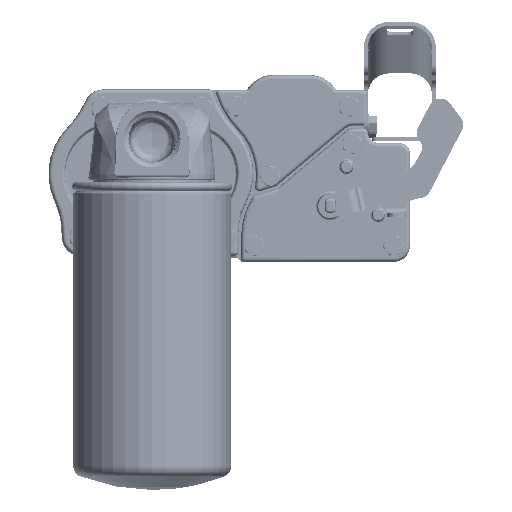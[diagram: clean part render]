
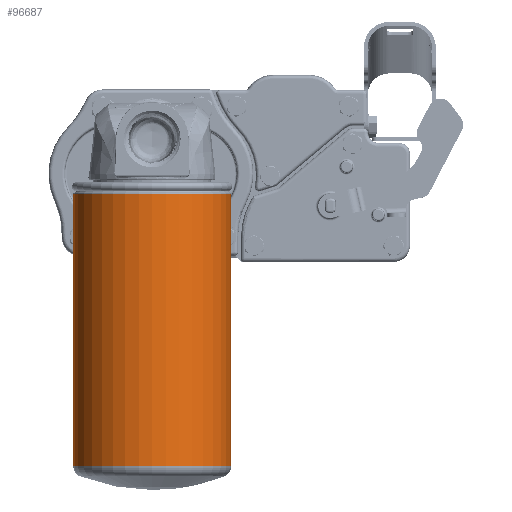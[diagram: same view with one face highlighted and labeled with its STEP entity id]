
A CAD part, top view. The second image highlights one B-rep face of the part: STEP entity #96687.
In plain terms, the highlighted cylindrical face has radius 46.863 mm (diameter 93.726 mm), a full revolution.
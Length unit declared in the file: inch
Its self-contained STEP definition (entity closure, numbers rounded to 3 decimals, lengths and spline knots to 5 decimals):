
#5857=CYLINDRICAL_SURFACE('',#104167,1.845);
#11091=FACE_OUTER_BOUND('',#16629,.T.);
#16629=EDGE_LOOP('',(#85886,#85887,#85888,#85889,#85890,#85891));
#19561=CIRCLE('',#104163,1.845);
#19562=CIRCLE('',#104164,1.845);
#19565=CIRCLE('',#104168,1.845);
#19566=CIRCLE('',#104169,1.845);
#29623=LINE('',#267557,#36389);
#36389=VECTOR('',#125188,1.845);
#45039=VERTEX_POINT('',#267546);
#45040=VERTEX_POINT('',#267547);
#45042=VERTEX_POINT('',#267554);
#45043=VERTEX_POINT('',#267555);
#58655=EDGE_CURVE('',#45039,#45040,#19561,.T.);
#58656=EDGE_CURVE('',#45040,#45039,#19562,.T.);
#58659=EDGE_CURVE('',#45042,#45043,#19565,.T.);
#58660=EDGE_CURVE('',#45042,#45040,#29623,.T.);
#58661=EDGE_CURVE('',#45043,#45042,#19566,.T.);
#85886=ORIENTED_EDGE('',*,*,#58659,.F.);
#85887=ORIENTED_EDGE('',*,*,#58660,.T.);
#85888=ORIENTED_EDGE('',*,*,#58655,.F.);
#85889=ORIENTED_EDGE('',*,*,#58656,.F.);
#85890=ORIENTED_EDGE('',*,*,#58660,.F.);
#85891=ORIENTED_EDGE('',*,*,#58661,.F.);
#96687=ADVANCED_FACE('',(#11091),#5857,.T.);
#104163=AXIS2_PLACEMENT_3D('',#267548,#125176,#125177);
#104164=AXIS2_PLACEMENT_3D('',#267549,#125178,#125179);
#104167=AXIS2_PLACEMENT_3D('',#267553,#125184,#125185);
#104168=AXIS2_PLACEMENT_3D('',#267556,#125186,#125187);
#104169=AXIS2_PLACEMENT_3D('',#267558,#125189,#125190);
#125176=DIRECTION('center_axis',(0.,0.,1.));
#125177=DIRECTION('ref_axis',(0.,-1.,0.));
#125178=DIRECTION('center_axis',(0.,0.,1.));
#125179=DIRECTION('ref_axis',(0.,-1.,0.));
#125184=DIRECTION('center_axis',(0.,0.,-1.));
#125185=DIRECTION('ref_axis',(0.,1.,0.));
#125186=DIRECTION('center_axis',(0.,0.,-1.));
#125187=DIRECTION('ref_axis',(0.,-1.,0.));
#125188=DIRECTION('',(0.,0.,1.));
#125189=DIRECTION('center_axis',(0.,0.,-1.));
#125190=DIRECTION('ref_axis',(0.,-1.,0.));
#267546=CARTESIAN_POINT('',(1.845,0.,6.9262));
#267547=CARTESIAN_POINT('',(0.,-1.845,6.9262));
#267548=CARTESIAN_POINT('Origin',(0.,0.,6.9262));
#267549=CARTESIAN_POINT('Origin',(0.,0.,6.9262));
#267553=CARTESIAN_POINT('Origin',(0.,0.,3.66197));
#267554=CARTESIAN_POINT('',(0.,-1.845,0.55111));
#267555=CARTESIAN_POINT('',(1.845,0.,0.55111));
#267556=CARTESIAN_POINT('Origin',(0.,0.,0.55111));
#267557=CARTESIAN_POINT('',(0.,-1.845,3.66197));
#267558=CARTESIAN_POINT('Origin',(0.,0.,0.55111));
